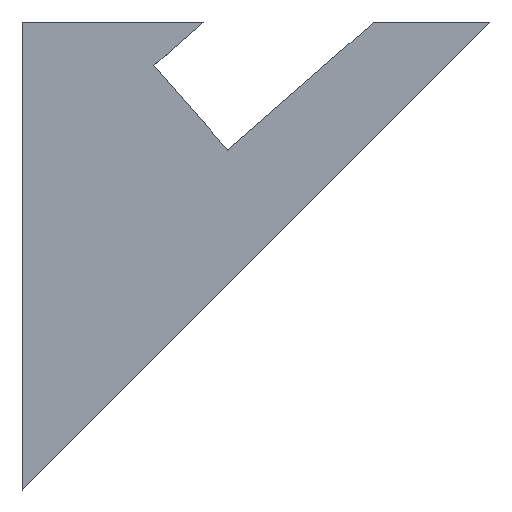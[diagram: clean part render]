
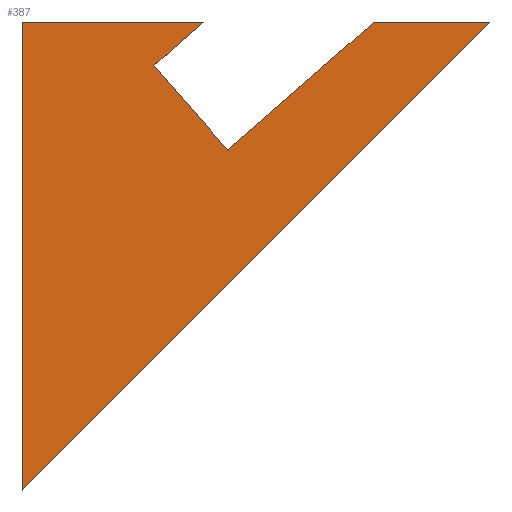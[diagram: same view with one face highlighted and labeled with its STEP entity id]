
A CAD part, top view. The second image highlights one B-rep face of the part: STEP entity #387.
In plain terms, the highlighted planar face has unit normal (0, 0, 1).
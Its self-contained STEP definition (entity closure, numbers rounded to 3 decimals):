
#24 = VERTEX_POINT('',#25);
#25 = CARTESIAN_POINT('',(0.,-125.,12.));
#32 = PLANE('',#33);
#33 = AXIS2_PLACEMENT_3D('',#34,#35,#36);
#34 = CARTESIAN_POINT('',(0.,-125.,0.));
#35 = DIRECTION('',(-1.,0.,0.));
#36 = DIRECTION('',(0.,1.,0.));
#44 = PLANE('',#45);
#45 = AXIS2_PLACEMENT_3D('',#46,#47,#48);
#46 = CARTESIAN_POINT('',(250.,125.,0.));
#47 = DIRECTION('',(0.707,-0.707,0.));
#48 = DIRECTION('',(-0.707,-0.707,0.));
#56 = EDGE_CURVE('',#24,#57,#59,.T.);
#57 = VERTEX_POINT('',#58);
#58 = CARTESIAN_POINT('',(0.,125.,12.));
#59 = SURFACE_CURVE('',#60,(#64,#71),.PCURVE_S1.);
#60 = LINE('',#61,#62);
#61 = CARTESIAN_POINT('',(0.,-125.,12.));
#62 = VECTOR('',#63,1.);
#63 = DIRECTION('',(0.,1.,0.));
#64 = PCURVE('',#32,#65);
#65 = DEFINITIONAL_REPRESENTATION('',(#66),#70);
#66 = LINE('',#67,#68);
#67 = CARTESIAN_POINT('',(0.,-12.));
#68 = VECTOR('',#69,1.);
#69 = DIRECTION('',(1.,0.));
#70 = ( GEOMETRIC_REPRESENTATION_CONTEXT(2) 
PARAMETRIC_REPRESENTATION_CONTEXT() REPRESENTATION_CONTEXT('2D SPACE',''
  ) );
#71 = PCURVE('',#72,#77);
#72 = PLANE('',#73);
#73 = AXIS2_PLACEMENT_3D('',#74,#75,#76);
#74 = CARTESIAN_POINT('',(88.388,36.612,12.));
#75 = DIRECTION('',(-0.,-0.,-1.));
#76 = DIRECTION('',(-1.,0.,0.));
#77 = DEFINITIONAL_REPRESENTATION('',(#78),#82);
#78 = LINE('',#79,#80);
#79 = CARTESIAN_POINT('',(88.388,-161.612));
#80 = VECTOR('',#81,1.);
#81 = DIRECTION('',(0.,1.));
#82 = ( GEOMETRIC_REPRESENTATION_CONTEXT(2) 
PARAMETRIC_REPRESENTATION_CONTEXT() REPRESENTATION_CONTEXT('2D SPACE',''
  ) );
#100 = PLANE('',#101);
#101 = AXIS2_PLACEMENT_3D('',#102,#103,#104);
#102 = CARTESIAN_POINT('',(0.,125.,0.));
#103 = DIRECTION('',(0.,1.,0.));
#104 = DIRECTION('',(1.,0.,0.));
#144 = VERTEX_POINT('',#145);
#145 = CARTESIAN_POINT('',(250.,125.,12.));
#159 = PLANE('',#160);
#160 = AXIS2_PLACEMENT_3D('',#161,#162,#163);
#161 = CARTESIAN_POINT('',(0.,125.,0.));
#162 = DIRECTION('',(0.,1.,0.));
#163 = DIRECTION('',(1.,0.,0.));
#171 = EDGE_CURVE('',#144,#24,#172,.T.);
#172 = SURFACE_CURVE('',#173,(#177,#184),.PCURVE_S1.);
#173 = LINE('',#174,#175);
#174 = CARTESIAN_POINT('',(250.,125.,12.));
#175 = VECTOR('',#176,1.);
#176 = DIRECTION('',(-0.707,-0.707,0.));
#177 = PCURVE('',#44,#178);
#178 = DEFINITIONAL_REPRESENTATION('',(#179),#183);
#179 = LINE('',#180,#181);
#180 = CARTESIAN_POINT('',(0.,-12.));
#181 = VECTOR('',#182,1.);
#182 = DIRECTION('',(1.,0.));
#183 = ( GEOMETRIC_REPRESENTATION_CONTEXT(2) 
PARAMETRIC_REPRESENTATION_CONTEXT() REPRESENTATION_CONTEXT('2D SPACE',''
  ) );
#184 = PCURVE('',#72,#185);
#185 = DEFINITIONAL_REPRESENTATION('',(#186),#190);
#186 = LINE('',#187,#188);
#187 = CARTESIAN_POINT('',(-161.612,88.388));
#188 = VECTOR('',#189,1.);
#189 = DIRECTION('',(0.707,-0.707));
#190 = ( GEOMETRIC_REPRESENTATION_CONTEXT(2) 
PARAMETRIC_REPRESENTATION_CONTEXT() REPRESENTATION_CONTEXT('2D SPACE',''
  ) );
#241 = EDGE_CURVE('',#57,#242,#244,.T.);
#242 = VERTEX_POINT('',#243);
#243 = CARTESIAN_POINT('',(97.041,125.,12.));
#244 = SURFACE_CURVE('',#245,(#249,#256),.PCURVE_S1.);
#245 = LINE('',#246,#247);
#246 = CARTESIAN_POINT('',(0.,125.,12.));
#247 = VECTOR('',#248,1.);
#248 = DIRECTION('',(1.,0.,0.));
#249 = PCURVE('',#100,#250);
#250 = DEFINITIONAL_REPRESENTATION('',(#251),#255);
#251 = LINE('',#252,#253);
#252 = CARTESIAN_POINT('',(0.,-12.));
#253 = VECTOR('',#254,1.);
#254 = DIRECTION('',(1.,0.));
#255 = ( GEOMETRIC_REPRESENTATION_CONTEXT(2) 
PARAMETRIC_REPRESENTATION_CONTEXT() REPRESENTATION_CONTEXT('2D SPACE',''
  ) );
#256 = PCURVE('',#72,#257);
#257 = DEFINITIONAL_REPRESENTATION('',(#258),#262);
#258 = LINE('',#259,#260);
#259 = CARTESIAN_POINT('',(88.388,88.388));
#260 = VECTOR('',#261,1.);
#261 = DIRECTION('',(-1.,0.));
#262 = ( GEOMETRIC_REPRESENTATION_CONTEXT(2) 
PARAMETRIC_REPRESENTATION_CONTEXT() REPRESENTATION_CONTEXT('2D SPACE',''
  ) );
#277 = PLANE('',#278);
#278 = AXIS2_PLACEMENT_3D('',#279,#280,#281);
#279 = CARTESIAN_POINT('',(70.443,101.675,36.001));
#280 = DIRECTION('',(-0.659,0.752,0.));
#281 = DIRECTION('',(0.752,0.659,0.));
#330 = PLANE('',#331);
#331 = AXIS2_PLACEMENT_3D('',#332,#333,#334);
#332 = CARTESIAN_POINT('',(110.004,56.562,36.001));
#333 = DIRECTION('',(0.752,0.659,0.));
#334 = DIRECTION('',(0.,0.,-1.));
#356 = PLANE('',#357);
#357 = AXIS2_PLACEMENT_3D('',#358,#359,#360);
#358 = CARTESIAN_POINT('',(110.004,56.562,36.001));
#359 = DIRECTION('',(-0.659,0.752,0.));
#360 = DIRECTION('',(0.752,0.659,0.));
#387 = ADVANCED_FACE('',(#388),#72,.F.);
#388 = FACE_BOUND('',#389,.F.);
#389 = EDGE_LOOP('',(#390,#391,#392,#393,#414,#435,#456));
#390 = ORIENTED_EDGE('',*,*,#171,.T.);
#391 = ORIENTED_EDGE('',*,*,#56,.T.);
#392 = ORIENTED_EDGE('',*,*,#241,.T.);
#393 = ORIENTED_EDGE('',*,*,#394,.F.);
#394 = EDGE_CURVE('',#395,#242,#397,.T.);
#395 = VERTEX_POINT('',#396);
#396 = CARTESIAN_POINT('',(70.443,101.675,12.));
#397 = SURFACE_CURVE('',#398,(#402,#408),.PCURVE_S1.);
#398 = LINE('',#399,#400);
#399 = CARTESIAN_POINT('',(59.388,91.981,12.));
#400 = VECTOR('',#401,1.);
#401 = DIRECTION('',(0.752,0.659,-0.));
#402 = PCURVE('',#72,#403);
#403 = DEFINITIONAL_REPRESENTATION('',(#404),#407);
#404 = B_SPLINE_CURVE_WITH_KNOTS('',1,(#405,#406),.UNSPECIFIED.,.F.,.F.,
  (2,2),(14.703,50.079),.PIECEWISE_BEZIER_KNOTS.);
#405 = CARTESIAN_POINT('',(17.946,65.064));
#406 = CARTESIAN_POINT('',(-8.653,88.388));
#407 = ( GEOMETRIC_REPRESENTATION_CONTEXT(2) 
PARAMETRIC_REPRESENTATION_CONTEXT() REPRESENTATION_CONTEXT('2D SPACE',''
  ) );
#408 = PCURVE('',#277,#409);
#409 = DEFINITIONAL_REPRESENTATION('',(#410),#413);
#410 = B_SPLINE_CURVE_WITH_KNOTS('',1,(#411,#412),.UNSPECIFIED.,.F.,.F.,
  (2,2),(14.703,50.079),.PIECEWISE_BEZIER_KNOTS.);
#411 = CARTESIAN_POINT('',(0.,24.001));
#412 = CARTESIAN_POINT('',(35.377,24.001));
#413 = ( GEOMETRIC_REPRESENTATION_CONTEXT(2) 
PARAMETRIC_REPRESENTATION_CONTEXT() REPRESENTATION_CONTEXT('2D SPACE',''
  ) );
#414 = ORIENTED_EDGE('',*,*,#415,.T.);
#415 = EDGE_CURVE('',#395,#416,#418,.T.);
#416 = VERTEX_POINT('',#417);
#417 = CARTESIAN_POINT('',(110.004,56.562,12.));
#418 = SURFACE_CURVE('',#419,(#423,#429),.PCURVE_S1.);
#419 = LINE('',#420,#421);
#420 = CARTESIAN_POINT('',(110.25,56.281,12.));
#421 = VECTOR('',#422,1.);
#422 = DIRECTION('',(0.659,-0.752,0.));
#423 = PCURVE('',#72,#424);
#424 = DEFINITIONAL_REPRESENTATION('',(#425),#428);
#425 = B_SPLINE_CURVE_WITH_KNOTS('',1,(#426,#427),.UNSPECIFIED.,.F.,.F.,
  (2,2),(-60.376,-0.374),.PIECEWISE_BEZIER_KNOTS.);
#426 = CARTESIAN_POINT('',(17.946,65.064));
#427 = CARTESIAN_POINT('',(-21.615,19.951));
#428 = ( GEOMETRIC_REPRESENTATION_CONTEXT(2) 
PARAMETRIC_REPRESENTATION_CONTEXT() REPRESENTATION_CONTEXT('2D SPACE',''
  ) );
#429 = PCURVE('',#330,#430);
#430 = DEFINITIONAL_REPRESENTATION('',(#431),#434);
#431 = B_SPLINE_CURVE_WITH_KNOTS('',1,(#432,#433),.UNSPECIFIED.,.F.,.F.,
  (2,2),(-60.376,-0.374),.PIECEWISE_BEZIER_KNOTS.);
#432 = CARTESIAN_POINT('',(24.001,60.002));
#433 = CARTESIAN_POINT('',(24.001,0.));
#434 = ( GEOMETRIC_REPRESENTATION_CONTEXT(2) 
PARAMETRIC_REPRESENTATION_CONTEXT() REPRESENTATION_CONTEXT('2D SPACE',''
  ) );
#435 = ORIENTED_EDGE('',*,*,#436,.T.);
#436 = EDGE_CURVE('',#416,#437,#439,.T.);
#437 = VERTEX_POINT('',#438);
#438 = CARTESIAN_POINT('',(188.047,125.,12.));
#439 = SURFACE_CURVE('',#440,(#444,#450),.PCURVE_S1.);
#440 = LINE('',#441,#442);
#441 = CARTESIAN_POINT('',(98.949,46.868,12.));
#442 = VECTOR('',#443,1.);
#443 = DIRECTION('',(0.752,0.659,-0.));
#444 = PCURVE('',#72,#445);
#445 = DEFINITIONAL_REPRESENTATION('',(#446),#449);
#446 = B_SPLINE_CURVE_WITH_KNOTS('',1,(#447,#448),.UNSPECIFIED.,.F.,.F.,
  (2,2),(14.703,118.503),.PIECEWISE_BEZIER_KNOTS.);
#447 = CARTESIAN_POINT('',(-21.615,19.951));
#448 = CARTESIAN_POINT('',(-99.658,88.388));
#449 = ( GEOMETRIC_REPRESENTATION_CONTEXT(2) 
PARAMETRIC_REPRESENTATION_CONTEXT() REPRESENTATION_CONTEXT('2D SPACE',''
  ) );
#450 = PCURVE('',#356,#451);
#451 = DEFINITIONAL_REPRESENTATION('',(#452),#455);
#452 = B_SPLINE_CURVE_WITH_KNOTS('',1,(#453,#454),.UNSPECIFIED.,.F.,.F.,
  (2,2),(14.703,118.503),.PIECEWISE_BEZIER_KNOTS.);
#453 = CARTESIAN_POINT('',(0.,24.001));
#454 = CARTESIAN_POINT('',(103.8,24.001));
#455 = ( GEOMETRIC_REPRESENTATION_CONTEXT(2) 
PARAMETRIC_REPRESENTATION_CONTEXT() REPRESENTATION_CONTEXT('2D SPACE',''
  ) );
#456 = ORIENTED_EDGE('',*,*,#457,.T.);
#457 = EDGE_CURVE('',#437,#144,#458,.T.);
#458 = SURFACE_CURVE('',#459,(#463,#470),.PCURVE_S1.);
#459 = LINE('',#460,#461);
#460 = CARTESIAN_POINT('',(0.,125.,12.));
#461 = VECTOR('',#462,1.);
#462 = DIRECTION('',(1.,0.,0.));
#463 = PCURVE('',#72,#464);
#464 = DEFINITIONAL_REPRESENTATION('',(#465),#469);
#465 = LINE('',#466,#467);
#466 = CARTESIAN_POINT('',(88.388,88.388));
#467 = VECTOR('',#468,1.);
#468 = DIRECTION('',(-1.,0.));
#469 = ( GEOMETRIC_REPRESENTATION_CONTEXT(2) 
PARAMETRIC_REPRESENTATION_CONTEXT() REPRESENTATION_CONTEXT('2D SPACE',''
  ) );
#470 = PCURVE('',#159,#471);
#471 = DEFINITIONAL_REPRESENTATION('',(#472),#476);
#472 = LINE('',#473,#474);
#473 = CARTESIAN_POINT('',(0.,-12.));
#474 = VECTOR('',#475,1.);
#475 = DIRECTION('',(1.,0.));
#476 = ( GEOMETRIC_REPRESENTATION_CONTEXT(2) 
PARAMETRIC_REPRESENTATION_CONTEXT() REPRESENTATION_CONTEXT('2D SPACE',''
  ) );
